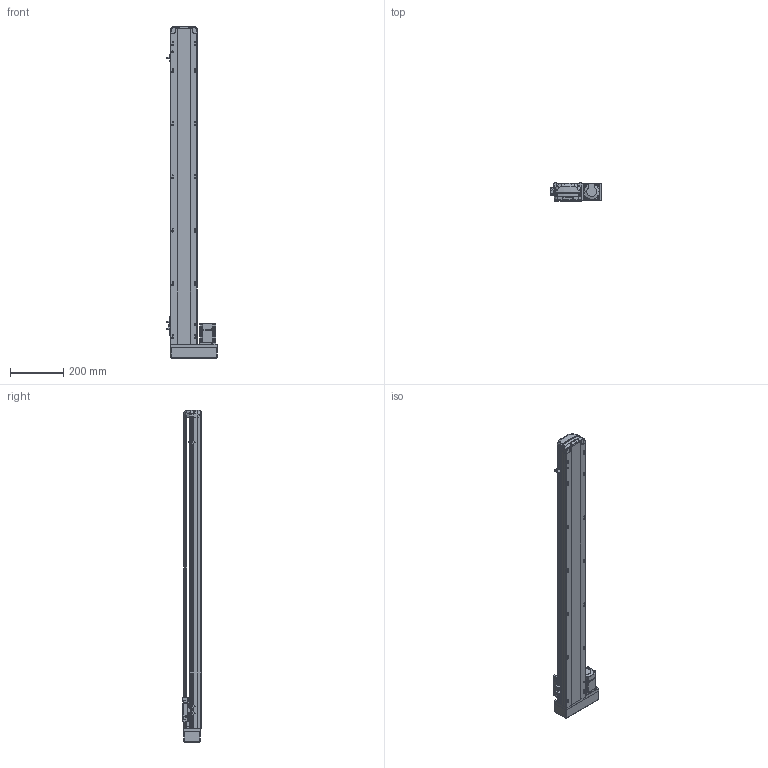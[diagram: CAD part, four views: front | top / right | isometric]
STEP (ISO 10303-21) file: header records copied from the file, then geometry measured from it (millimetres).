
FILE_DESCRIPTION (( 'STEP AP214' ), '1' );
FILE_NAME ('RTH10-XX-1000-R-M20-C4.STEP', '2025-10-25T05:03:51', ( 'Microsoft' ), ( 'Microsoft' ), 'SwSTEP 2.0', 'SolidWorks 2018', '' );
FILE_SCHEMA (( 'AUTOMOTIVE_DESIGN' ));
Length unit declared in the file: millimetre
Products named in the file (10): N_RTH10-M-007P-奻裔^RTH10-XX-XX-R-M20-C4; N_OMRON EE-SX672 传感器^RTH10-XX-XX-R-M20-C4; N_RTH10-M-011P-臏倰第菁釱^RTH10-XX-XX-R-M20-C4; N_RTH10-L-008萇儂啣^RTH10-XX-XX-R-M20-C4; N_RTH10-L-018-裔赽^RTH10-XX-XX-R-M20-C4; N_RTH13-L-012覜茼え俋离^RTH10-XX-XX-R-M20-C4; N_RTH10-GY-001P^RTH10-XX-XX-R-M20-C4; RTH10-XX-1000-R-M20-C4; N_200W-1^RTH10-XX-XX-R-M20-C4; N_RTH10-GY-004-賑釱^RTH10-XX-XX-R-M20-C4
Assembly tree (11 placements, depth 2):
  RTH10-XX-1000-R-M20-C4
    N_RTH10-M-011P-臏倰第菁釱^RTH10-XX-XX-R-M20-C4
    N_RTH13-L-012覜茼え俋离^RTH10-XX-XX-R-M20-C4
    N_OMRON EE-SX672 传感器^RTH10-XX-XX-R-M20-C4  x3
    N_200W-1^RTH10-XX-XX-R-M20-C4
    N_RTH10-M-007P-奻裔^RTH10-XX-XX-R-M20-C4
    N_RTH10-L-008萇儂啣^RTH10-XX-XX-R-M20-C4
    N_RTH10-L-018-裔赽^RTH10-XX-XX-R-M20-C4
    N_RTH10-GY-004-賑釱^RTH10-XX-XX-R-M20-C4
    N_RTH10-GY-001P^RTH10-XX-XX-R-M20-C4
Bounding box: 190 x 70 x 1247.31 mm (x, y, z)
Volume: 5345574.6 mm3; surface area: 802811.5 mm2
Topology: 10 solids, 12 shells, 2016 faces, 5641 edges, 3705 vertices
Faces by surface type: plane 991, cylinder 518, bspline 472, cone 29, sphere 4, torus 2
Entity records: 61135 total; most frequent: CARTESIAN_POINT 23797, ORIENTED_EDGE 8354, DIRECTION 6515, EDGE_CURVE 4183, VERTEX_POINT 2749, VECTOR 2221, LINE 2221, AXIS2_PLACEMENT_3D 2147
